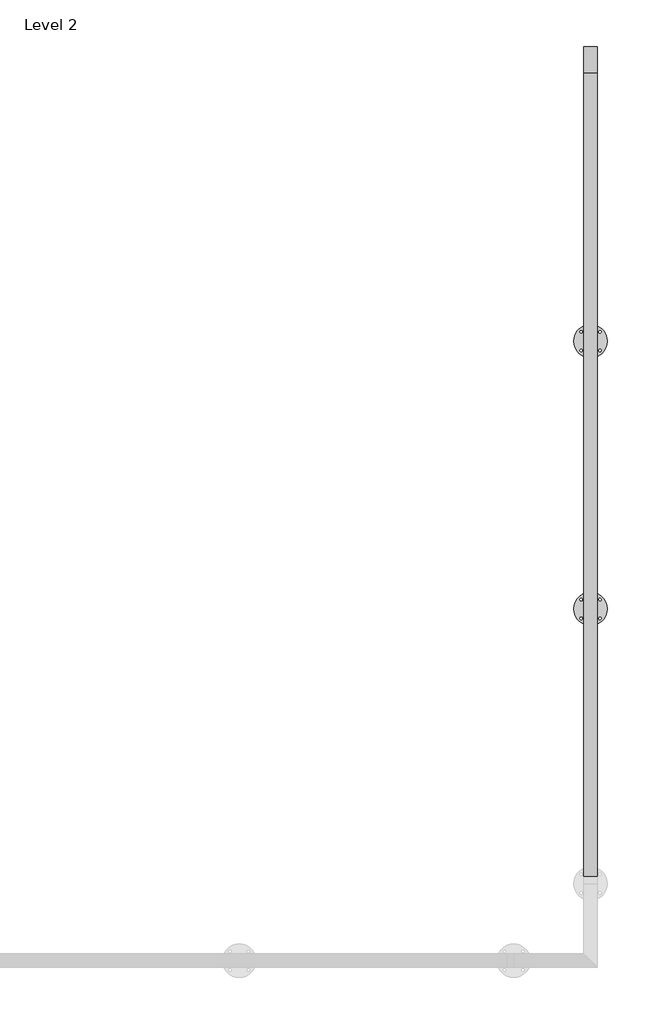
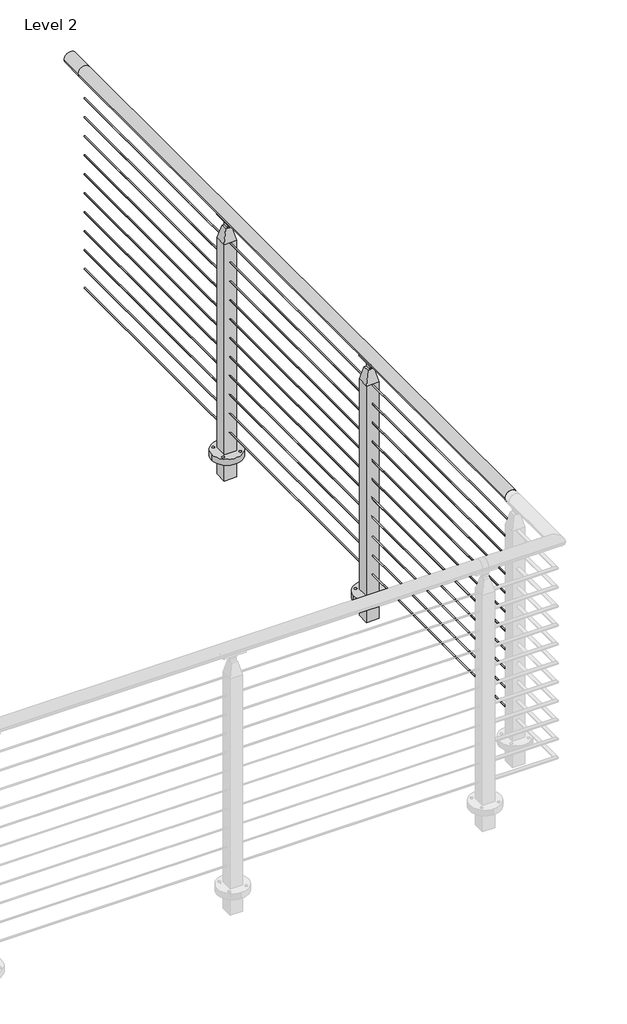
# One storey, part 17 of 17: 1 railing.
"""IFC4 building model written with IfcOpenShell, lengths in millimetres."""

from ifc_helpers import new_model, si_unit, point, frame, frame_2d, origin, place, context, project, spatial, polyline, circle_curve, trimmed, segment, composite_curve, outline, extrude, faceted_brep, element, save
from ifc_brep_helpers import plane_surface, cylinder_surface, revolved_surface, advanced_brep

model = new_model("IFC4")

# Units and contexts
model_context = context("Model", 3, world=origin())
ifc_project = project(units=[si_unit("LENGTHUNIT", "METRE", prefix="MILLI")], contexts=[model_context])

# Site, building, storey
site = spatial("IfcSite", under=ifc_project)
building = spatial("IfcBuilding", under=site)
storey = spatial("IfcBuildingStorey", under=building, Name="Level 2", Elevation=3048.0)

# Railing
placement = place(None, origin())
element("IfcRailing", 1, ObjectType="VIVA-CUBE-Cable-Core Mount-Straight", at=placement, inside=storey, context=model_context, shape_type="SolidModel", body=[
    advanced_brep(
    [(71215.3936734, -51786.8457415, 4102.1), (71164.5936734, -51786.8457415, 4102.1), (71215.3936734, -48738.8457415, 4102.1), (71164.5936734, -48738.8457415, 4102.1), (71215.3936734, -48637.2457415, 4102.1), (71164.5936734, -48637.2457415, 4102.1)],
    [
        (0, 1, circle_curve(frame((71189.9936734, -51786.8457415, 4102.1), z_axis=(0.0, -1.0, 0.0), x_axis=(-1.0, 0.0, 0.0)), 25.4)),
        (1, 0, circle_curve(frame((71189.9936734, -51786.8457415, 4102.1), z_axis=(0.0, -1.0, 0.0), x_axis=(-1.0, 0.0, 0.0)), 25.4)),
        (0, 2),
        (2, 3, circle_curve(frame((71189.9936734, -48738.8457415, 4102.1), z_axis=(0.0, -1.0, 0.0), x_axis=(-1.0, 0.0, 0.0)), 25.4)),
        (3, 1),
        (3, 2, circle_curve(frame((71189.9936734, -48738.8457415, 4102.1), z_axis=(0.0, -1.0, 0.0), x_axis=(-1.0, 0.0, 0.0)), 25.4)),
        (4, 5, circle_curve(frame((71189.9936734, -48637.2457415, 4102.1), z_axis=(0.0, 1.0, 0.0), x_axis=(-1.0, 0.0, 0.0)), 25.4)),
        (5, 4, circle_curve(frame((71189.9936734, -48637.2457415, 4102.1), z_axis=(0.0, 1.0, 0.0), x_axis=(-1.0, 0.0, 0.0)), 25.4)),
        (2, 4),
        (5, 3),
    ],
    [
        plane_surface(frame((71189.9936734, -51786.8457415, 4127.5), z_axis=(0.0, -1.0, 0.0), x_axis=(0.0, 0.0, 1.0))),
        cylinder_surface(frame((71189.9936734, -51786.8457415, 4102.1), z_axis=(0.0, -1.0, 0.0), x_axis=(-1.0, 0.0, 0.0)), 25.4),
        plane_surface(frame((71189.9936734, -48637.2457415, 4127.5), z_axis=(0.0, 1.0, 0.0), x_axis=(0.0, 0.0, 1.0))),
        cylinder_surface(frame((71189.9936734, -48738.8457415, 4102.1), z_axis=(0.0, -1.0, 0.0), x_axis=(-1.0, 0.0, 0.0)), 25.4),
    ],
    [
        (0, [[1, 2]]),
        (1, [[-1, 3, 4, 5]]),
        (1, [[-2, -5, 6, -3]]),
        (2, [[7, 8]]),
        (3, [[-4, 9, -8, 10]]),
        (3, [[-6, -10, -7, -9]]),
    ],
),
    extrude(outline(composite_curve([segment(trimmed(circle_curve(frame_2d((3985.4124, 71189.9936734)), 2.3876), [point((3985.4124, 71187.6060734))], [point((3985.4124, 71192.3812734))], False, "CARTESIAN"), True, "CONTINUOUS"), segment(trimmed(circle_curve(frame_2d((3985.4124, 71189.9936734)), 2.3876), [point((3985.4124, 71192.3812734))], [point((3985.4124, 71187.6060734))], False, "CARTESIAN"), True, "CONTINUOUS")], self_intersect=False)), frame((0.0, -51786.8457415, 0.0), z_axis=(0.0, 1.0, 0.0), x_axis=(0.0, 0.0, 1.0)), (0.0, 0.0, 1.0), 3048.0),
    extrude(outline(composite_curve([segment(trimmed(circle_curve(frame_2d((3902.8624, 71189.9936734)), 2.3876), [point((3902.8624, 71187.6060734))], [point((3902.8624, 71192.3812734))], False, "CARTESIAN"), True, "CONTINUOUS"), segment(trimmed(circle_curve(frame_2d((3902.8624, 71189.9936734)), 2.3876), [point((3902.8624, 71192.3812734))], [point((3902.8624, 71187.6060734))], False, "CARTESIAN"), True, "CONTINUOUS")], self_intersect=False)), frame((0.0, -51786.8457415, 0.0), z_axis=(0.0, 1.0, 0.0), x_axis=(0.0, 0.0, 1.0)), (0.0, 0.0, 1.0), 3048.0),
    extrude(outline(composite_curve([segment(trimmed(circle_curve(frame_2d((3820.3124, 71189.9936734)), 2.3876), [point((3820.3124, 71187.6060734))], [point((3820.3124, 71192.3812734))], False, "CARTESIAN"), True, "CONTINUOUS"), segment(trimmed(circle_curve(frame_2d((3820.3124, 71189.9936734)), 2.3876), [point((3820.3124, 71192.3812734))], [point((3820.3124, 71187.6060734))], False, "CARTESIAN"), True, "CONTINUOUS")], self_intersect=False)), frame((0.0, -51786.8457415, 0.0), z_axis=(0.0, 1.0, 0.0), x_axis=(0.0, 0.0, 1.0)), (0.0, 0.0, 1.0), 3048.0),
    extrude(outline(composite_curve([segment(trimmed(circle_curve(frame_2d((3737.7624, 71189.9936734)), 2.3876), [point((3737.7624, 71187.6060734))], [point((3737.7624, 71192.3812734))], False, "CARTESIAN"), True, "CONTINUOUS"), segment(trimmed(circle_curve(frame_2d((3737.7624, 71189.9936734)), 2.3876), [point((3737.7624, 71192.3812734))], [point((3737.7624, 71187.6060734))], False, "CARTESIAN"), True, "CONTINUOUS")], self_intersect=False)), frame((0.0, -51786.8457415, 0.0), z_axis=(0.0, 1.0, 0.0), x_axis=(0.0, 0.0, 1.0)), (0.0, 0.0, 1.0), 3048.0),
    extrude(outline(composite_curve([segment(trimmed(circle_curve(frame_2d((3655.2124, 71189.9936734)), 2.3876), [point((3655.2124, 71187.6060734))], [point((3655.2124, 71192.3812734))], False, "CARTESIAN"), True, "CONTINUOUS"), segment(trimmed(circle_curve(frame_2d((3655.2124, 71189.9936734)), 2.3876), [point((3655.2124, 71192.3812734))], [point((3655.2124, 71187.6060734))], False, "CARTESIAN"), True, "CONTINUOUS")], self_intersect=False)), frame((0.0, -51786.8457415, 0.0), z_axis=(0.0, 1.0, 0.0), x_axis=(0.0, 0.0, 1.0)), (0.0, 0.0, 1.0), 3048.0),
    extrude(outline(composite_curve([segment(trimmed(circle_curve(frame_2d((3572.6624, 71189.9936734)), 2.3876), [point((3572.6624, 71187.6060734))], [point((3572.6624, 71192.3812734))], False, "CARTESIAN"), True, "CONTINUOUS"), segment(trimmed(circle_curve(frame_2d((3572.6624, 71189.9936734)), 2.3876), [point((3572.6624, 71192.3812734))], [point((3572.6624, 71187.6060734))], False, "CARTESIAN"), True, "CONTINUOUS")], self_intersect=False)), frame((0.0, -51786.8457415, 0.0), z_axis=(0.0, 1.0, 0.0), x_axis=(0.0, 0.0, 1.0)), (0.0, 0.0, 1.0), 3048.0),
    extrude(outline(composite_curve([segment(trimmed(circle_curve(frame_2d((3490.1124, 71189.9936734)), 2.3876), [point((3490.1124, 71187.6060734))], [point((3490.1124, 71192.3812734))], False, "CARTESIAN"), True, "CONTINUOUS"), segment(trimmed(circle_curve(frame_2d((3490.1124, 71189.9936734)), 2.3876), [point((3490.1124, 71192.3812734))], [point((3490.1124, 71187.6060734))], False, "CARTESIAN"), True, "CONTINUOUS")], self_intersect=False)), frame((0.0, -51786.8457415, 0.0), z_axis=(0.0, 1.0, 0.0), x_axis=(0.0, 0.0, 1.0)), (0.0, 0.0, 1.0), 3048.0),
    extrude(outline(composite_curve([segment(trimmed(circle_curve(frame_2d((3407.5624, 71189.9936734)), 2.3876), [point((3407.5624, 71187.6060734))], [point((3407.5624, 71192.3812734))], False, "CARTESIAN"), True, "CONTINUOUS"), segment(trimmed(circle_curve(frame_2d((3407.5624, 71189.9936734)), 2.3876), [point((3407.5624, 71192.3812734))], [point((3407.5624, 71187.6060734))], False, "CARTESIAN"), True, "CONTINUOUS")], self_intersect=False)), frame((0.0, -51786.8457415, 0.0), z_axis=(0.0, 1.0, 0.0), x_axis=(0.0, 0.0, 1.0)), (0.0, 0.0, 1.0), 3048.0),
    extrude(outline(composite_curve([segment(trimmed(circle_curve(frame_2d((3325.0124, 71189.9936734)), 2.3876), [point((3325.0124, 71187.6060734))], [point((3325.0124, 71192.3812734))], False, "CARTESIAN"), True, "CONTINUOUS"), segment(trimmed(circle_curve(frame_2d((3325.0124, 71189.9936734)), 2.3876), [point((3325.0124, 71192.3812734))], [point((3325.0124, 71187.6060734))], False, "CARTESIAN"), True, "CONTINUOUS")], self_intersect=False)), frame((0.0, -51786.8457415, 0.0), z_axis=(0.0, 1.0, 0.0), x_axis=(0.0, 0.0, 1.0)), (0.0, 0.0, 1.0), 3048.0),
    extrude(outline(composite_curve([segment(trimmed(circle_curve(frame_2d((3242.4624, 71189.9936734)), 2.3876), [point((3242.4624, 71187.6060734))], [point((3242.4624, 71192.3812734))], False, "CARTESIAN"), True, "CONTINUOUS"), segment(trimmed(circle_curve(frame_2d((3242.4624, 71189.9936734)), 2.3876), [point((3242.4624, 71192.3812734))], [point((3242.4624, 71187.6060734))], False, "CARTESIAN"), True, "CONTINUOUS")], self_intersect=False)), frame((0.0, -51786.8457415, 0.0), z_axis=(0.0, 1.0, 0.0), x_axis=(0.0, 0.0, 1.0)), (0.0, 0.0, 1.0), 3048.0),
    extrude(outline(composite_curve([segment(trimmed(circle_curve(frame_2d((3159.9124, 71189.9936734)), 2.3876), [point((3159.9124, 71187.6060734))], [point((3159.9124, 71192.3812734))], False, "CARTESIAN"), True, "CONTINUOUS"), segment(trimmed(circle_curve(frame_2d((3159.9124, 71189.9936734)), 2.3876), [point((3159.9124, 71192.3812734))], [point((3159.9124, 71187.6060734))], False, "CARTESIAN"), True, "CONTINUOUS")], self_intersect=False)), frame((0.0, -51786.8457415, 0.0), z_axis=(0.0, 1.0, 0.0), x_axis=(0.0, 0.0, 1.0)), (0.0, 0.0, 1.0), 3048.0),
    extrude(outline(composite_curve([segment(trimmed(circle_curve(frame_2d((71189.9936734, -49754.4488665)), 63.5), [point((71253.4936734, -49754.4488665))], [point((71126.4936734, -49754.4488665))], False, "CARTESIAN"), True, "CONTINUOUS"), segment(trimmed(circle_curve(frame_2d((71189.9936734, -49754.4488665)), 63.5), [point((71126.4936734, -49754.4488665))], [point((71253.4936734, -49754.4488665))], False, "CARTESIAN"), True, "CONTINUOUS")], self_intersect=False), holes=[composite_curve([segment(trimmed(circle_curve(frame_2d((71225.4634173, -49789.9186104)), 4.7625), [point((71230.2259173, -49789.9186104))], [point((71220.7009173, -49789.9186104))], True, "CARTESIAN"), True, "CONTINUOUS"), segment(trimmed(circle_curve(frame_2d((71225.4634173, -49789.9186104)), 4.7625), [point((71220.7009173, -49789.9186104))], [point((71230.2259173, -49789.9186104))], True, "CARTESIAN"), True, "CONTINUOUS")], self_intersect=False), composite_curve([segment(trimmed(circle_curve(frame_2d((71154.5239295, -49789.9186104)), 4.7625), [point((71159.2864295, -49789.9186104))], [point((71149.7614295, -49789.9186104))], True, "CARTESIAN"), True, "CONTINUOUS"), segment(trimmed(circle_curve(frame_2d((71154.5239295, -49789.9186104)), 4.7625), [point((71149.7614295, -49789.9186104))], [point((71159.2864295, -49789.9186104))], True, "CARTESIAN"), True, "CONTINUOUS")], self_intersect=False), composite_curve([segment(trimmed(circle_curve(frame_2d((71225.4634173, -49718.9791227)), 4.7625), [point((71230.2259173, -49718.9791227))], [point((71220.7009173, -49718.9791227))], True, "CARTESIAN"), True, "CONTINUOUS"), segment(trimmed(circle_curve(frame_2d((71225.4634173, -49718.9791227)), 4.7625), [point((71220.7009173, -49718.9791227))], [point((71230.2259173, -49718.9791227))], True, "CARTESIAN"), True, "CONTINUOUS")], self_intersect=False), composite_curve([segment(trimmed(circle_curve(frame_2d((71154.5239295, -49718.9791227)), 4.7625), [point((71159.2864295, -49718.9791227))], [point((71149.7614295, -49718.9791227))], True, "CARTESIAN"), True, "CONTINUOUS"), segment(trimmed(circle_curve(frame_2d((71154.5239295, -49718.9791227)), 4.7625), [point((71149.7614295, -49718.9791227))], [point((71159.2864295, -49718.9791227))], True, "CARTESIAN"), True, "CONTINUOUS")], self_intersect=False)]), frame((0.0, 0.0, 3048.0), z_axis=(0.0, 0.0, 1.0), x_axis=(1.0, 0.0, 0.0)), (0.0, 0.0, 1.0), 25.4),
    faceted_brep([(71177.2936734, -49741.7488665, 4045.2902749), (71177.2936734, -49767.1488665, 4045.2902749), (71186.0249234, -49767.1488665, 4045.2902749), (71186.0249234, -49741.7488665, 4045.2902749), (71202.6936734, -49767.1488665, 4045.2902749), (71202.6936734, -49741.7488665, 4045.2902749), (71193.9624234, -49741.7488665, 4045.2902749), (71193.9624234, -49767.1488665, 4045.2902749), (71164.5936734, -49729.0488665, 3989.1347854), (71215.3936734, -49729.0488665, 3989.1347854), (71164.5936734, -49779.8488665, 3989.1347854), (71215.3936734, -49779.8488665, 3989.1347854), (71164.5936734, -49729.0488665, 2959.1), (71215.3936734, -49729.0488665, 2959.1), (71215.3936734, -49779.8488665, 2959.1), (71164.5936734, -49779.8488665, 2959.1), (71193.9624234, -49767.1488665, 4057.3306013), (71193.9624234, -49741.7488665, 4057.3306013), (71186.0249234, -49741.7488665, 4057.3306013), (71186.0249234, -49767.1488665, 4057.3306013)], [[[0, 1, 2, 3]], [[4, 5, 6, 7]], [[8, 0, 3, 6, 5, 9]], [[1, 0, 8, 10]], [[1, 10, 11, 4, 7, 2]], [[5, 4, 11, 9]], [[12, 13, 14, 15]], [[12, 15, 10, 8]], [[15, 14, 11, 10]], [[14, 13, 9, 11]], [[13, 12, 8, 9]], [[16, 17, 18, 19]], [[17, 16, 7, 6]], [[18, 17, 6, 3]], [[19, 18, 3, 2]], [[16, 19, 2, 7]]]),
    extrude(outline(composite_curve([segment(trimmed(circle_curve(frame_2d((4102.1433184, 71189.896945)), 25.4345159), [point((4080.0284941, 71202.4607479))], [point((4079.9335733, 71177.5017113))], True, "CARTESIAN"), True, "CONTINUOUS"), segment(trimmed(circle_curve(frame_2d((4077.4310885, 71176.2570582)), 2.7949225), [point((4079.9335733, 71177.5017113))], [point((4075.0585031, 71174.7797531))], False, "CARTESIAN"), True, "CONTINUOUS"), segment(trimmed(circle_curve(frame_2d((4102.905945, 71190.0304081)), 31.75), [point((4075.0585031, 71174.7797531))], [point((4075.6392616, 71206.2966454))], False, "CARTESIAN"), True, "CONTINUOUS"), segment(trimmed(circle_curve(frame_2d((4077.5101807, 71204.0083056)), 2.9558141), [point((4075.6392616, 71206.2966454))], [point((4080.0284941, 71202.4607479))], False, "CARTESIAN"), True, "CONTINUOUS")], self_intersect=False)), frame((0.0, -49799.6862665, 0.0), z_axis=(0.0, 1.0, 0.0), x_axis=(0.0, 0.0, 1.0)), (0.0, 0.0, 1.0), 90.4748),
    advanced_brep(
    [(71187.4536734, -49727.3809517, 4071.3685171), (71187.4536734, -49741.7488665, 4057.0006022), (71187.4536734, -49767.1488665, 4057.0006022), (71187.4536734, -49781.5167814, 4071.3685171), (71192.5336734, -49727.3809517, 4071.3685171), (71192.5336734, -49781.5167814, 4071.3685171), (71192.5336734, -49767.1488665, 4057.0006022), (71192.5336734, -49741.7488665, 4057.0006022)],
    [
        (0, 1, circle_curve(frame((71187.4536734, -49727.3809517, 4057.0006022), z_axis=(1.0, 0.0, 0.0), x_axis=(0.0, -1.0, 0.0)), 14.3679149)),
        (1, 2, circle_curve(frame((71187.4536734, -49754.4488665, 4057.0006022), z_axis=(-1.0, 0.0, 0.0), x_axis=(0.0, -1.0, 0.0)), 12.7)),
        (2, 3, circle_curve(frame((71187.4536734, -49781.5167814, 4057.0006022), z_axis=(1.0, 0.0, 0.0), x_axis=(0.0, -1.0, 0.0)), 14.3679149)),
        (3, 0),
        (4, 5),
        (5, 6, circle_curve(frame((71192.5336734, -49781.5167814, 4057.0006022), z_axis=(-1.0, 0.0, 0.0), x_axis=(0.0, -1.0, 0.0)), 14.3679149)),
        (6, 7, circle_curve(frame((71192.5336734, -49754.4488665, 4057.0006022), z_axis=(1.0, 0.0, 0.0), x_axis=(0.0, -1.0, 0.0)), 12.7)),
        (7, 4, circle_curve(frame((71192.5336734, -49727.3809517, 4057.0006022), z_axis=(-1.0, 0.0, 0.0), x_axis=(0.0, -1.0, 0.0)), 14.3679149)),
        (0, 4),
        (7, 1),
        (6, 2),
        (5, 3),
    ],
    [
        plane_surface(frame((71187.4536734, -49741.7488665, 4057.0006022), z_axis=(-1.0, 0.0, 0.0), x_axis=(0.0, 0.0, -1.0))),
        plane_surface(frame((71192.5336734, -49741.7488665, 4057.0006022), z_axis=(1.0, 0.0, 0.0), x_axis=(0.0, 0.0, 1.0))),
        revolved_surface(polyline([(71192.5336734, -49741.7488666, 4057.0006022), (71187.4536734, -49741.7488666, 4057.0006022)]), (71192.5336734, -49727.3809517, 4057.0006022), (1.0, 0.0, 0.0)),
        cylinder_surface(frame((71192.5336734, -49754.4488665, 4057.0006022), z_axis=(-1.0, 0.0, 0.0), x_axis=(0.0, -1.0, 0.0)), 12.7),
        revolved_surface(polyline([(71192.5336734, -49795.8846963, 4057.0006022), (71187.4536734, -49795.8846963, 4057.0006022)]), (71192.5336734, -49781.5167814, 4057.0006022), (1.0, 0.0, 0.0)),
        plane_surface(frame((71187.4536734, -49781.5167814, 4071.3685171), z_axis=(0.0, 0.0, 1.0), x_axis=(1.0, 0.0, 0.0))),
    ],
    [
        (0, [[1, 2, 3, 4]]),
        (1, [[5, 6, 7, 8]]),
        (2, [[-1, 9, -8, 10]]),
        (3, [[-2, -10, -7, 11]]),
        (4, [[-3, -11, -6, 12]]),
        (5, [[-4, -12, -5, -9]]),
    ],
),
    extrude(outline(composite_curve([segment(trimmed(circle_curve(frame_2d((71189.9936734, -50770.4488665)), 63.5), [point((71253.4936734, -50770.4488665))], [point((71126.4936734, -50770.4488665))], False, "CARTESIAN"), True, "CONTINUOUS"), segment(trimmed(circle_curve(frame_2d((71189.9936734, -50770.4488665)), 63.5), [point((71126.4936734, -50770.4488665))], [point((71253.4936734, -50770.4488665))], False, "CARTESIAN"), True, "CONTINUOUS")], self_intersect=False), holes=[composite_curve([segment(trimmed(circle_curve(frame_2d((71225.4634173, -50805.9186104)), 4.7625), [point((71230.2259173, -50805.9186104))], [point((71220.7009173, -50805.9186104))], True, "CARTESIAN"), True, "CONTINUOUS"), segment(trimmed(circle_curve(frame_2d((71225.4634173, -50805.9186104)), 4.7625), [point((71220.7009173, -50805.9186104))], [point((71230.2259173, -50805.9186104))], True, "CARTESIAN"), True, "CONTINUOUS")], self_intersect=False), composite_curve([segment(trimmed(circle_curve(frame_2d((71154.5239295, -50805.9186104)), 4.7625), [point((71159.2864295, -50805.9186104))], [point((71149.7614295, -50805.9186104))], True, "CARTESIAN"), True, "CONTINUOUS"), segment(trimmed(circle_curve(frame_2d((71154.5239295, -50805.9186104)), 4.7625), [point((71149.7614295, -50805.9186104))], [point((71159.2864295, -50805.9186104))], True, "CARTESIAN"), True, "CONTINUOUS")], self_intersect=False), composite_curve([segment(trimmed(circle_curve(frame_2d((71225.4634173, -50734.9791227)), 4.7625), [point((71230.2259173, -50734.9791227))], [point((71220.7009173, -50734.9791227))], True, "CARTESIAN"), True, "CONTINUOUS"), segment(trimmed(circle_curve(frame_2d((71225.4634173, -50734.9791227)), 4.7625), [point((71220.7009173, -50734.9791227))], [point((71230.2259173, -50734.9791227))], True, "CARTESIAN"), True, "CONTINUOUS")], self_intersect=False), composite_curve([segment(trimmed(circle_curve(frame_2d((71154.5239295, -50734.9791227)), 4.7625), [point((71159.2864295, -50734.9791227))], [point((71149.7614295, -50734.9791227))], True, "CARTESIAN"), True, "CONTINUOUS"), segment(trimmed(circle_curve(frame_2d((71154.5239295, -50734.9791227)), 4.7625), [point((71149.7614295, -50734.9791227))], [point((71159.2864295, -50734.9791227))], True, "CARTESIAN"), True, "CONTINUOUS")], self_intersect=False)]), frame((0.0, 0.0, 3048.0), z_axis=(0.0, 0.0, 1.0), x_axis=(1.0, 0.0, 0.0)), (0.0, 0.0, 1.0), 25.4),
    faceted_brep([(71177.2936734, -50757.7488665, 4045.2902749), (71177.2936734, -50783.1488665, 4045.2902749), (71186.0249234, -50783.1488665, 4045.2902749), (71186.0249234, -50757.7488665, 4045.2902749), (71202.6936734, -50783.1488665, 4045.2902749), (71202.6936734, -50757.7488665, 4045.2902749), (71193.9624234, -50757.7488665, 4045.2902749), (71193.9624234, -50783.1488665, 4045.2902749), (71164.5936734, -50745.0488665, 3989.1347854), (71215.3936734, -50745.0488665, 3989.1347854), (71164.5936734, -50795.8488665, 3989.1347854), (71215.3936734, -50795.8488665, 3989.1347854), (71164.5936734, -50745.0488665, 2959.1), (71215.3936734, -50745.0488665, 2959.1), (71215.3936734, -50795.8488665, 2959.1), (71164.5936734, -50795.8488665, 2959.1), (71193.9624234, -50783.1488665, 4057.3306013), (71193.9624234, -50757.7488665, 4057.3306013), (71186.0249234, -50757.7488665, 4057.3306013), (71186.0249234, -50783.1488665, 4057.3306013)], [[[0, 1, 2, 3]], [[4, 5, 6, 7]], [[8, 0, 3, 6, 5, 9]], [[1, 0, 8, 10]], [[1, 10, 11, 4, 7, 2]], [[5, 4, 11, 9]], [[12, 13, 14, 15]], [[12, 15, 10, 8]], [[15, 14, 11, 10]], [[14, 13, 9, 11]], [[13, 12, 8, 9]], [[16, 17, 18, 19]], [[17, 16, 7, 6]], [[18, 17, 6, 3]], [[19, 18, 3, 2]], [[16, 19, 2, 7]]]),
    extrude(outline(composite_curve([segment(trimmed(circle_curve(frame_2d((4102.1433184, 71189.896945)), 25.4345159), [point((4080.0284941, 71202.4607479))], [point((4079.9335733, 71177.5017113))], True, "CARTESIAN"), True, "CONTINUOUS"), segment(trimmed(circle_curve(frame_2d((4077.4310885, 71176.2570582)), 2.7949225), [point((4079.9335733, 71177.5017113))], [point((4075.0585031, 71174.7797531))], False, "CARTESIAN"), True, "CONTINUOUS"), segment(trimmed(circle_curve(frame_2d((4102.905945, 71190.0304081)), 31.75), [point((4075.0585031, 71174.7797531))], [point((4075.6392616, 71206.2966454))], False, "CARTESIAN"), True, "CONTINUOUS"), segment(trimmed(circle_curve(frame_2d((4077.5101807, 71204.0083056)), 2.9558141), [point((4075.6392616, 71206.2966454))], [point((4080.0284941, 71202.4607479))], False, "CARTESIAN"), True, "CONTINUOUS")], self_intersect=False)), frame((0.0, -50815.6862665, 0.0), z_axis=(0.0, 1.0, 0.0), x_axis=(0.0, 0.0, 1.0)), (0.0, 0.0, 1.0), 90.4748),
    advanced_brep(
    [(71187.4536734, -50743.3809517, 4071.3685171), (71187.4536734, -50757.7488665, 4057.0006022), (71187.4536734, -50783.1488665, 4057.0006022), (71187.4536734, -50797.5167814, 4071.3685171), (71192.5336734, -50743.3809517, 4071.3685171), (71192.5336734, -50797.5167814, 4071.3685171), (71192.5336734, -50783.1488665, 4057.0006022), (71192.5336734, -50757.7488665, 4057.0006022)],
    [
        (0, 1, circle_curve(frame((71187.4536734, -50743.3809517, 4057.0006022), z_axis=(1.0, 0.0, 0.0), x_axis=(0.0, -1.0, 0.0)), 14.3679149)),
        (1, 2, circle_curve(frame((71187.4536734, -50770.4488665, 4057.0006022), z_axis=(-1.0, 0.0, 0.0), x_axis=(0.0, -1.0, 0.0)), 12.7)),
        (2, 3, circle_curve(frame((71187.4536734, -50797.5167814, 4057.0006022), z_axis=(1.0, 0.0, 0.0), x_axis=(0.0, -1.0, 0.0)), 14.3679149)),
        (3, 0),
        (4, 5),
        (5, 6, circle_curve(frame((71192.5336734, -50797.5167814, 4057.0006022), z_axis=(-1.0, 0.0, 0.0), x_axis=(0.0, -1.0, 0.0)), 14.3679149)),
        (6, 7, circle_curve(frame((71192.5336734, -50770.4488665, 4057.0006022), z_axis=(1.0, 0.0, 0.0), x_axis=(0.0, -1.0, 0.0)), 12.7)),
        (7, 4, circle_curve(frame((71192.5336734, -50743.3809517, 4057.0006022), z_axis=(-1.0, 0.0, 0.0), x_axis=(0.0, -1.0, 0.0)), 14.3679149)),
        (0, 4),
        (7, 1),
        (6, 2),
        (5, 3),
    ],
    [
        plane_surface(frame((71187.4536734, -50757.7488665, 4057.0006022), z_axis=(-1.0, 0.0, 0.0), x_axis=(0.0, 0.0, -1.0))),
        plane_surface(frame((71192.5336734, -50757.7488665, 4057.0006022), z_axis=(1.0, 0.0, 0.0), x_axis=(0.0, 0.0, 1.0))),
        revolved_surface(polyline([(71192.5336734, -50757.7488666, 4057.0006022), (71187.4536734, -50757.7488666, 4057.0006022)]), (71192.5336734, -50743.3809517, 4057.0006022), (1.0, 0.0, 0.0)),
        cylinder_surface(frame((71192.5336734, -50770.4488665, 4057.0006022), z_axis=(-1.0, 0.0, 0.0), x_axis=(0.0, -1.0, 0.0)), 12.7),
        revolved_surface(polyline([(71192.5336734, -50811.8846963, 4057.0006022), (71187.4536734, -50811.8846963, 4057.0006022)]), (71192.5336734, -50797.5167814, 4057.0006022), (1.0, 0.0, 0.0)),
        plane_surface(frame((71187.4536734, -50797.5167814, 4071.3685171), z_axis=(0.0, 0.0, 1.0), x_axis=(1.0, 0.0, 0.0))),
    ],
    [
        (0, [[1, 2, 3, 4]]),
        (1, [[5, 6, 7, 8]]),
        (2, [[-1, 9, -8, 10]]),
        (3, [[-2, -10, -7, 11]]),
        (4, [[-3, -11, -6, 12]]),
        (5, [[-4, -12, -5, -9]]),
    ],
),
])

save(model, "model.ifc")
